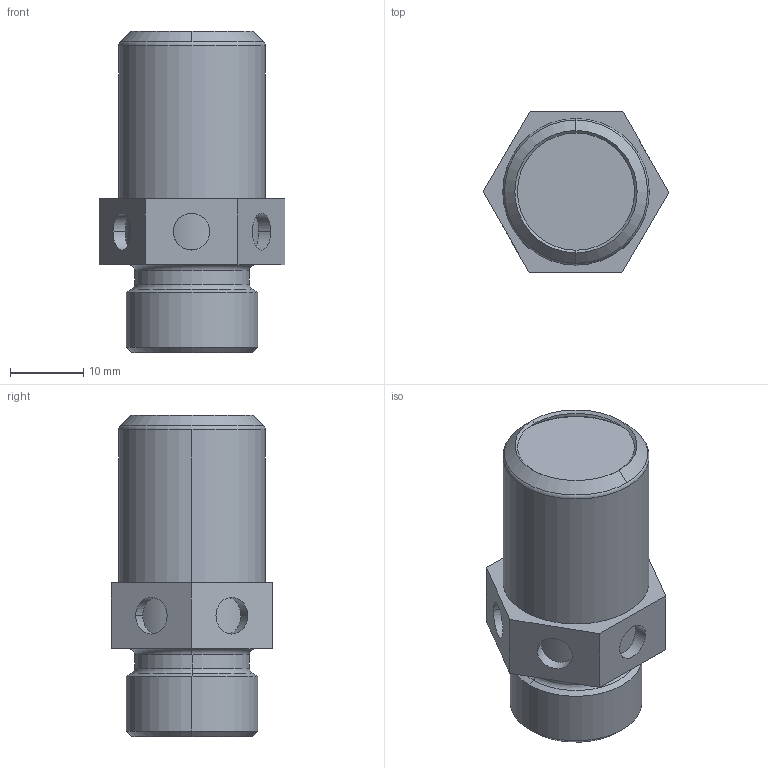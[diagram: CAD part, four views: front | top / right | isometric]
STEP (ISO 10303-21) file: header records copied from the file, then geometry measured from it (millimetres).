
FILE_DESCRIPTION((''),'2;1');
FILE_NAME('__MERGE_','2019-07-04T',('c.kretz'),(''),'PRO/ENGINEER BY PARAMETRIC TECHNOLOGY CORPORATION, 2015110','PRO/ENGINEER BY PARAMETRIC TECHNOLOGY CORPORATION, 2015110','');
FILE_SCHEMA(('AUTOMOTIVE_DESIGN { 1 0 10303 214 1 1 1 1 }'));
Length unit declared in the file: millimetre
Products named in the file (1): __MERGE_
Bounding box: 25.4 x 22.07 x 43.85 mm (x, y, z)
Volume: 12776 mm3; surface area: 4058.3 mm2
Topology: 1 solids, 1 shells, 55 faces, 115 edges, 71 vertices
Faces by surface type: cylinder 26, plane 11, cone 10, torus 8
Entity records: 2205 total; most frequent: CARTESIAN_POINT 391, DIRECTION 266, ORIENTED_EDGE 230, EDGE_CURVE 115, AXIS2_PLACEMENT_3D 109, VERTEX_POINT 71, EDGE_LOOP 64, FACE_OUTER_BOUND 55
